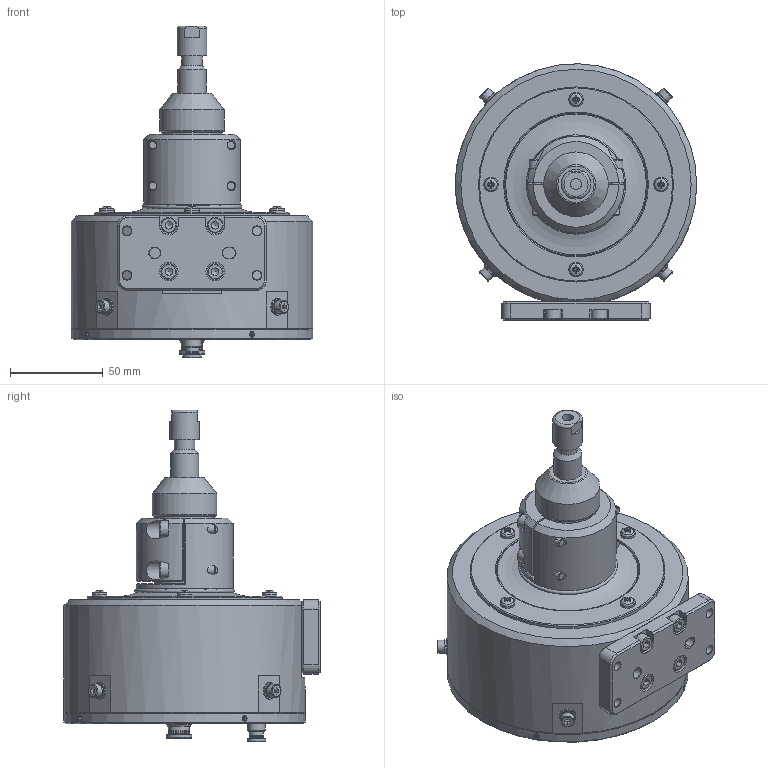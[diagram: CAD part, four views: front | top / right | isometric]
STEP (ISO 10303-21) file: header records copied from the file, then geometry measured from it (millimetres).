
FILE_DESCRIPTION(/* description */ (''),/* implementation_level */ '2;1');
FILE_NAME(/* name */ 'D:\5.工具設計\RC301\0.出圖\RC300_20221128.stp',/* time_stamp */ '2022-11-28T11:09:27+08:00',/* author */ ('Sam'),/* organization */ (''),/* preprocessor_version */ 'ST-DEVELOPER v18.1',/* originating_system */ 'Autodesk Inventor 2021',/* authorisation */ '');
FILE_SCHEMA (('AUTOMOTIVE_DESIGN { 1 0 10303 214 3 1 1 }'));
Length unit declared in the file: millimetre
Products named in the file (1): RC301-000-000-C_總組裝_Shrinkwrap_2
Bounding box: 130 x 138 x 178.5 mm (x, y, z)
Volume: 613470.6 mm3; surface area: 171291.7 mm2
Topology: 47 solids, 47 shells, 1009 faces, 2374 edges, 1511 vertices
Faces by surface type: plane 503, cone 225, cylinder 213, torus 63, sphere 4, bspline 1
Full cylindrical faces by diameter (mm): 2.459 x8, 3 x7, 3.242 x12, 3.621 x4, 4 x17, 4.134 x8, 4.3 x4, 4.5 x13, 4.917 x4, 5 x9, 5.4 x1, 5.5 x8, 6 x2, 6.3 x2, 7 x8, 7.5 x2, 7.8 x2, 8 x11, 8.5 x8, 9 x4, 9.7 x1, 9.8 x1, 9.9 x1, 10 x2, 11 x3, 11.4 x2, 13.7 x1, 13.8 x1, 15.103 x1, 16 x1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
Entity records: 31777 total; most frequent: CARTESIAN_POINT 7560, DIRECTION 4930, ORIENTED_EDGE 4656, EDGE_CURVE 2328, AXIS2_PLACEMENT_3D 1979, VERTEX_POINT 1511, EDGE_LOOP 1227, STYLED_ITEM 1056
